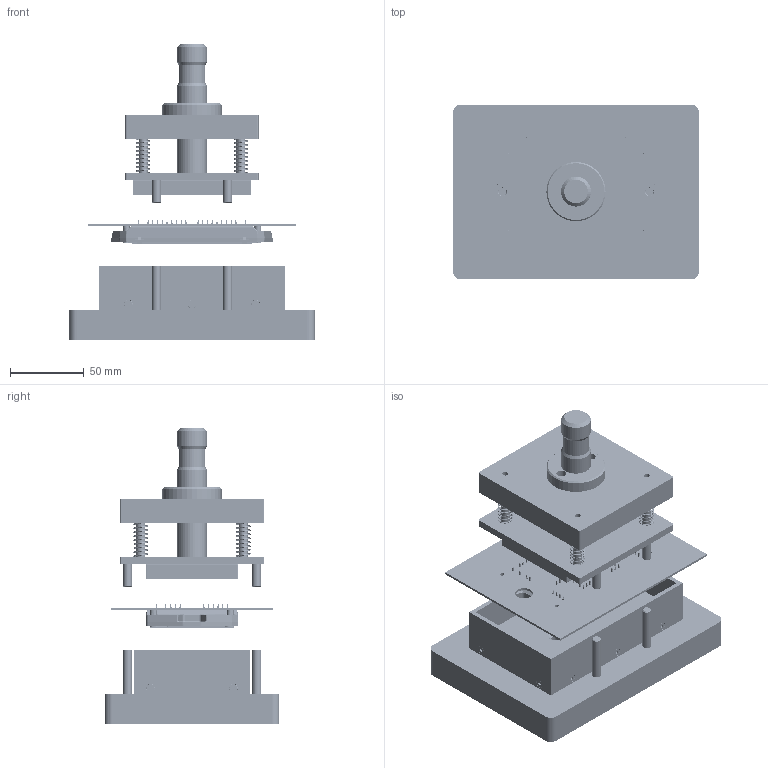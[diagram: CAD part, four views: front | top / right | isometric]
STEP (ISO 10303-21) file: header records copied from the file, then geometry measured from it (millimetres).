
FILE_DESCRIPTION(/* description */ ('Unknown','CAx-IF Rec.Pracs.---Representation and Presentation of Product Manufacturing Information (PMI)---4.0---2014-10-13','CAx-IF Rec.Pracs.---3D Tessellated Geometry---0.4---2014-09-14','2;1'),/* implementation_level */ '2;1');
FILE_NAME(/* name */ 'flowE3-Pressout',/* time_stamp */ '2026-01-13T14:49:55+01:00',/* author */ ('Unknown'),/* organization */ ('Unknown'),/* preprocessor_version */ 'ST-DEVELOPER v20',/* originating_system */ 'Solid Edge',/* authorisation */ 'Unknown');
FILE_SCHEMA (('AP242_MANAGED_MODEL_BASED_3D_ENGINEERING_MIM_LF { 1 0 10303 442 1 1 4 }'));
Products named in the file (22): PRESS-OUT; FlowE3_press-out_bottom; base; baseplate; supporting_pin; cage; pressout_pad; pressout_pad_sidewall_long; pressout_pad_sidewall_short; 400-0173-31-07-01_DIN7991_M3x12_screw; module; FlowE3_press-out_top; springpin; pressing_plate_lower; spacer; ram; pressing_plate_upper; fixingpin; nyr_SPEC-C0240-020-1000S; DIN 912 M6x40; PCB_3; 400-0173-10-01-01_Adaptor_for_servo_press
Assembly tree (44 placements, depth 4):
  PRESS-OUT
    FlowE3_press-out_bottom
      base
        baseplate
        supporting_pin  x4
      cage
        pressout_pad
        pressout_pad_sidewall_long  x2
        pressout_pad_sidewall_short  x2
      400-0173-31-07-01_DIN7991_M3x12_screw  x10
    module
    FlowE3_press-out_top
      springpin  x4
      pressing_plate_lower
      spacer
      ram
      pressing_plate_upper
      fixingpin  x4
      nyr_SPEC-C0240-020-1000S  x4
      DIN 912 M6x40
    PCB_3
    400-0173-10-01-01_Adaptor_for_servo_press
Bounding box: 166 x 118 x 199.64 mm (x, y, z)
Volume: 847988.8 mm3; surface area: 251127 mm2
Topology: 40 solids, 94 shells, 10362 faces, 25617 edges, 15963 vertices
Faces by surface type: plane 5526, cylinder 2760, bspline 1572, cone 435, torus 43, sphere 26
Full cylindrical faces by diameter (mm): 1 x52, 1.4 x52, 2.459 x10, 2.8 x4, 3 x20, 3.2 x10, 3.242 x4, 4 x24, 4.1 x2, 4.917 x1, 5.1 x2, 6 x13, 6.05 x2, 6.1 x2, 6.2 x4, 6.8 x2, 10 x1, 11 x1, 12 x2, 18 x1, 20 x3, 22 x1, 40 x1
Entity records: 385946 total; most frequent: CARTESIAN_POINT 90603, ORIENTED_EDGE 49618, DIRECTION 40605, EDGE_CURVE 24809, VERTEX_POINT 15579, LINE 13901, VECTOR 13901, AXIS2_PLACEMENT_3D 13352
